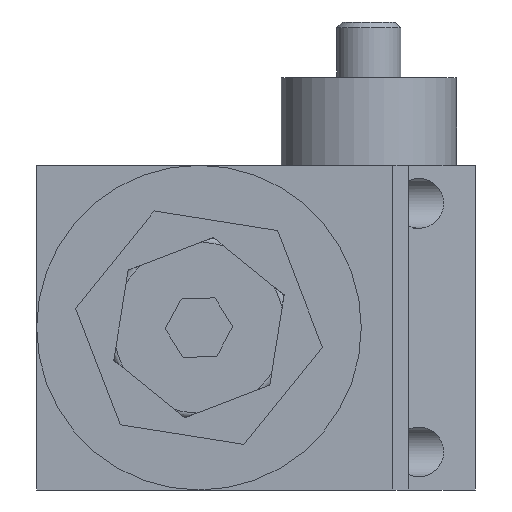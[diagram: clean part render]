
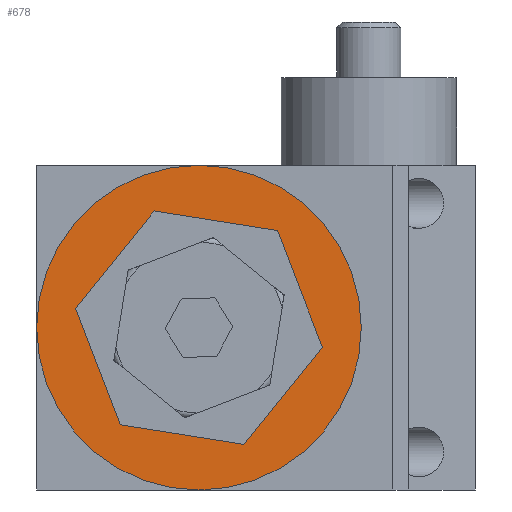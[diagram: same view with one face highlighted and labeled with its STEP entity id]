
A CAD part, left-side view. The second image highlights one B-rep face of the part: STEP entity #678.
In plain terms, the highlighted planar face has unit normal (-1, 0, 0).
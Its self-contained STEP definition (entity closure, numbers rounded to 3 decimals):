
#442=FACE_OUTER_BOUND('',#2274,.T.);
#678=ADVANCED_FACE('',(#442),#945,.F.);
#945=PLANE('',#5347);
#2274=EDGE_LOOP('',(#3028));
#3028=ORIENTED_EDGE('',*,*,#4546,.F.);
#4021=VERTEX_POINT('',#7580);
#4546=EDGE_CURVE('',#4021,#4021,#5045,.T.);
#5045=CIRCLE('',#5344,55.5);
#5344=AXIS2_PLACEMENT_3D('',#7579,#6178,#6179);
#5347=AXIS2_PLACEMENT_3D('',#7584,#6184,#6185);
#6178=DIRECTION('',(1.,0.,0.));
#6179=DIRECTION('',(0.,1.,0.));
#6184=DIRECTION('',(1.,0.,0.));
#6185=DIRECTION('',(0.,0.,-1.));
#7579=CARTESIAN_POINT('',(-153.5,32.5,55.5));
#7580=CARTESIAN_POINT('',(-153.5,88.,55.5));
#7584=CARTESIAN_POINT('',(-153.5,32.5,55.5));
